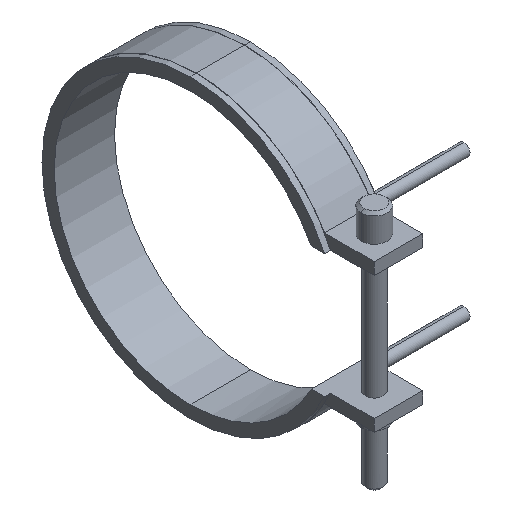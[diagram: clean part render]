
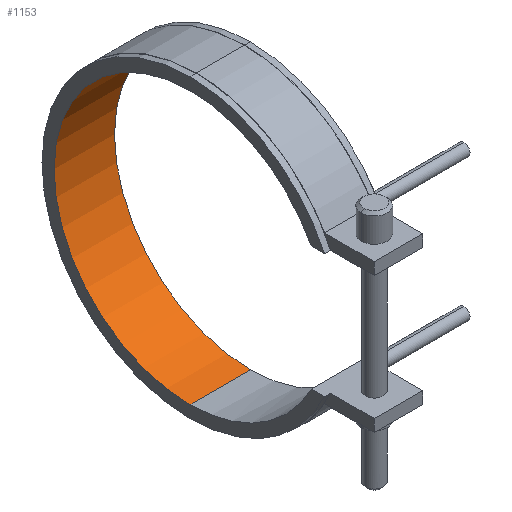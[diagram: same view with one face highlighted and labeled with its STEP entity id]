
A CAD part, isometric view. The second image highlights one B-rep face of the part: STEP entity #1153.
In plain terms, the highlighted cylindrical face has radius 45 mm (diameter 90 mm), a partial arc.
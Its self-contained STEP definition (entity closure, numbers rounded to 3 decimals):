
#834=CARTESIAN_POINT('Vertex',(-10.,0.,-45.)) ;
#841=CARTESIAN_POINT('Vertex',(10.,0.,-45.)) ;
#844=CARTESIAN_POINT('Line Origine',(10.,0.,-45.)) ;
#862=CARTESIAN_POINT('Axis2P3D Location',(-10.,0.,0.)) ;
#866=CARTESIAN_POINT('Vertex',(-10.,0.,45.)) ;
#923=CARTESIAN_POINT('Vertex',(10.,0.,45.)) ;
#933=CARTESIAN_POINT('Line Origine',(10.,0.,45.)) ;
#1024=CARTESIAN_POINT('Axis2P3D Location',(10.,0.,0.)) ;
#1142=CARTESIAN_POINT('Axis2P3D Location',(10.,0.,0.)) ;
#845=DIRECTION('Vector Direction',(1.,0.,0.)) ;
#863=DIRECTION('Axis2P3D Direction',(1.,0.,0.)) ;
#934=DIRECTION('Vector Direction',(1.,0.,0.)) ;
#1025=DIRECTION('Axis2P3D Direction',(1.,0.,0.)) ;
#1143=DIRECTION('Axis2P3D Direction',(1.,0.,-0.)) ;
#1144=DIRECTION('Axis2P3D XDirection',(0.,0.,-1.)) ;
#864=AXIS2_PLACEMENT_3D('Circle Axis2P3D',#862,#863,$) ;
#1026=AXIS2_PLACEMENT_3D('Circle Axis2P3D',#1024,#1025,$) ;
#1145=AXIS2_PLACEMENT_3D('Cylinder Axis2P3D',#1142,#1143,#1144) ;
#1148=ORIENTED_EDGE('',*,*,#1028,.T.) ;
#1149=ORIENTED_EDGE('',*,*,#937,.T.) ;
#1150=ORIENTED_EDGE('',*,*,#868,.F.) ;
#1151=ORIENTED_EDGE('',*,*,#848,.T.) ;
#846=VECTOR('Line Direction',#845,1.) ;
#935=VECTOR('Line Direction',#934,1.) ;
#1153=ADVANCED_FACE('14090020',(#1152),#1146,.F.) ;
#865=CIRCLE('generated circle',#864,45.) ;
#1027=CIRCLE('generated circle',#1026,45.) ;
#1146=CYLINDRICAL_SURFACE('generated cylinder',#1145,45.) ;
#848=EDGE_CURVE('',#835,#842,#847,.T.) ;
#868=EDGE_CURVE('',#835,#867,#865,.T.) ;
#937=EDGE_CURVE('',#924,#867,#936,.F.) ;
#1028=EDGE_CURVE('',#842,#924,#1027,.T.) ;
#1147=EDGE_LOOP('',(#1148,#1149,#1150,#1151)) ;
#1152=FACE_OUTER_BOUND('',#1147,.T.) ;
#847=LINE('Line',#844,#846) ;
#936=LINE('Line',#933,#935) ;
#835=VERTEX_POINT('',#834) ;
#842=VERTEX_POINT('',#841) ;
#867=VERTEX_POINT('',#866) ;
#924=VERTEX_POINT('',#923) ;
